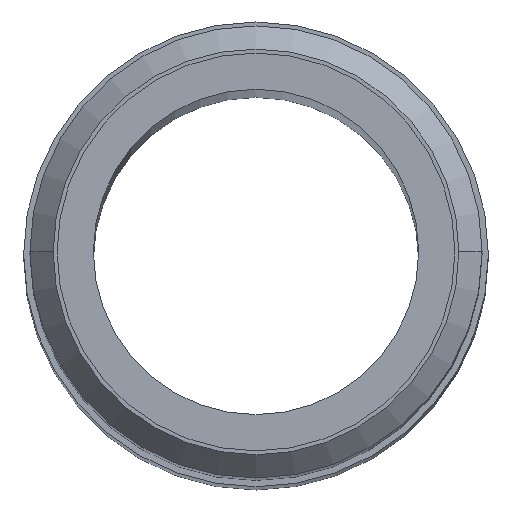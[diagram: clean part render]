
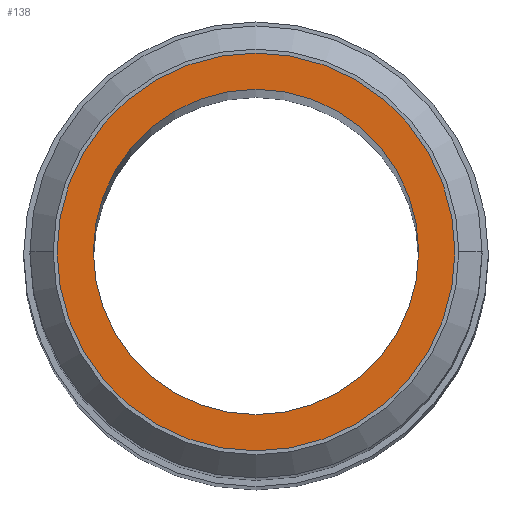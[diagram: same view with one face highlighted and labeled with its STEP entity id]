
A CAD part, top view. The second image highlights one B-rep face of the part: STEP entity #138.
In plain terms, the highlighted planar face has unit normal (0, 0, 1).
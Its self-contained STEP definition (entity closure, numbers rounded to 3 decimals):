
#78 = FACE_BOUND ( 'NONE', #1117, .T. ) ;
#104 = DIRECTION ( 'NONE',  ( 1., 0., 0. ) ) ;
#108 = DIRECTION ( 'NONE',  ( 0., 0., 1. ) ) ;
#112 = CARTESIAN_POINT ( 'NONE',  ( 4.28, 0., 100. ) ) ;
#138 = ADVANCED_FACE ( 'NONE', ( #78, #1200 ), #901, .T. ) ;
#194 = CIRCLE ( 'NONE', #622, 4.28 ) ;
#224 = CIRCLE ( 'NONE', #992, 4.28 ) ;
#262 = CIRCLE ( 'NONE', #1165, 3.5 ) ;
#269 = CIRCLE ( 'NONE', #985, 3.5 ) ;
#532 = AXIS2_PLACEMENT_3D ( 'NONE', #112, #108, #104 ) ;
#563 = ORIENTED_EDGE ( 'NONE', *, *, #964, .T. ) ;
#564 = DIRECTION ( 'NONE',  ( -1., 0., 0. ) ) ;
#567 = DIRECTION ( 'NONE',  ( 0., 0., -1. ) ) ;
#568 = CARTESIAN_POINT ( 'NONE',  ( 0., 0., 100. ) ) ;
#570 = ORIENTED_EDGE ( 'NONE', *, *, #967, .T. ) ;
#572 = ORIENTED_EDGE ( 'NONE', *, *, #1032, .F. ) ;
#573 = ORIENTED_EDGE ( 'NONE', *, *, #1052, .F. ) ;
#595 = DIRECTION ( 'NONE',  ( -1., 0., 0. ) ) ;
#597 = DIRECTION ( 'NONE',  ( 0., 0., -1. ) ) ;
#599 = CARTESIAN_POINT ( 'NONE',  ( 0., 0., 100. ) ) ;
#610 = VERTEX_POINT ( 'NONE', #883 ) ;
#622 = AXIS2_PLACEMENT_3D ( 'NONE', #568, #567, #564 ) ;
#715 = DIRECTION ( 'NONE',  ( -1., 0., 0. ) ) ;
#716 = DIRECTION ( 'NONE',  ( 0., 0., -1. ) ) ;
#717 = CARTESIAN_POINT ( 'NONE',  ( 0., 0., 100. ) ) ;
#727 = DIRECTION ( 'NONE',  ( -1., 0., 0. ) ) ;
#730 = DIRECTION ( 'NONE',  ( 0., 0., -1. ) ) ;
#732 = CARTESIAN_POINT ( 'NONE',  ( 0., 0., 100. ) ) ;
#760 = VERTEX_POINT ( 'NONE', #850 ) ;
#791 = CARTESIAN_POINT ( 'NONE',  ( -3.5, 0., 100. ) ) ;
#797 = CARTESIAN_POINT ( 'NONE',  ( 3.5, 0., 100. ) ) ;
#840 = VERTEX_POINT ( 'NONE', #797 ) ;
#850 = CARTESIAN_POINT ( 'NONE',  ( 4.28, 0., 100. ) ) ;
#883 = CARTESIAN_POINT ( 'NONE',  ( -4.28, 0., 100. ) ) ;
#901 = PLANE ( 'NONE',  #532 ) ;
#936 = VERTEX_POINT ( 'NONE', #791 ) ;
#964 = EDGE_CURVE ( 'NONE', #936, #840, #269, .T. ) ;
#967 = EDGE_CURVE ( 'NONE', #840, #936, #262, .T. ) ;
#985 = AXIS2_PLACEMENT_3D ( 'NONE', #732, #730, #727 ) ;
#992 = AXIS2_PLACEMENT_3D ( 'NONE', #599, #597, #595 ) ;
#1012 = EDGE_LOOP ( 'NONE', ( #572, #573 ) ) ;
#1032 = EDGE_CURVE ( 'NONE', #610, #760, #224, .T. ) ;
#1052 = EDGE_CURVE ( 'NONE', #760, #610, #194, .T. ) ;
#1117 = EDGE_LOOP ( 'NONE', ( #563, #570 ) ) ;
#1165 = AXIS2_PLACEMENT_3D ( 'NONE', #717, #716, #715 ) ;
#1200 = FACE_OUTER_BOUND ( 'NONE', #1012, .T. ) ;
